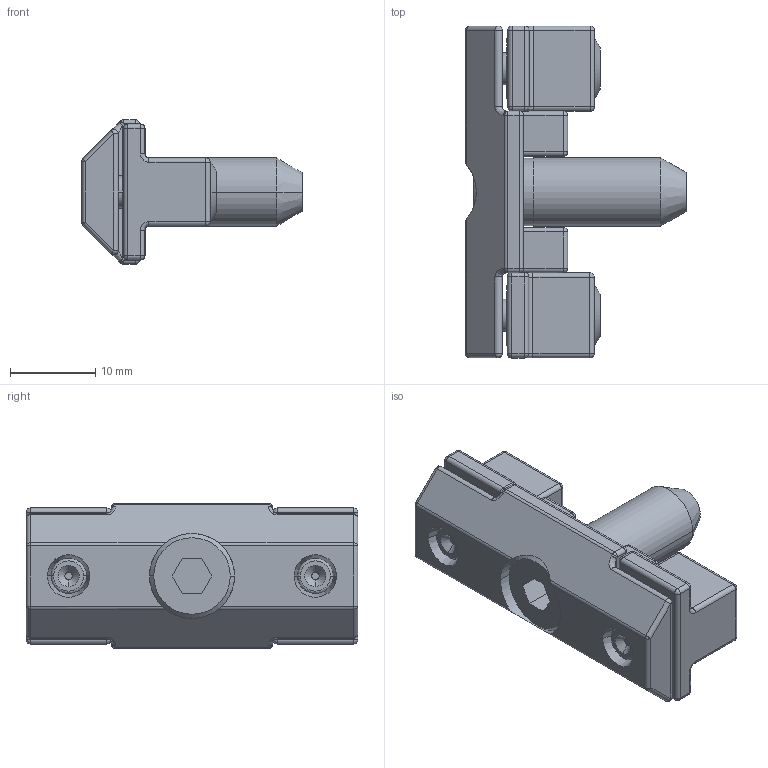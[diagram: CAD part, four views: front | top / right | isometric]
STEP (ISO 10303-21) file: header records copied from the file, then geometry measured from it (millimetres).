
FILE_DESCRIPTION (( 'STEP AP214' ), '1' );
FILE_NAME ('50256-01-0000-00.STEP', '2016-11-03T09:56:56', ( '' ), ( '' ), 'SwSTEP 2.0', 'SolidWorks 2016', '' );
FILE_SCHEMA (( 'AUTOMOTIVE_DESIGN' ));
Length unit declared in the file: millimetre
Products named in the file (1): 50256-01-0000-00
Bounding box: 25.95 x 39 x 17 mm (x, y, z)
Volume: 6055.3 mm3; surface area: 5296.6 mm2
Topology: 6 solids, 6 shells, 289 faces, 669 edges, 351 vertices
Faces by surface type: cylinder 124, plane 73, bspline 68, cone 24
Entity records: 13184 total; most frequent: CARTESIAN_POINT 3870, DIRECTION 1288, ORIENTED_EDGE 1242, EDGE_CURVE 621, AXIS2_PLACEMENT_3D 491, VERTEX_POINT 351, EDGE_LOOP 306, VECTOR 306
